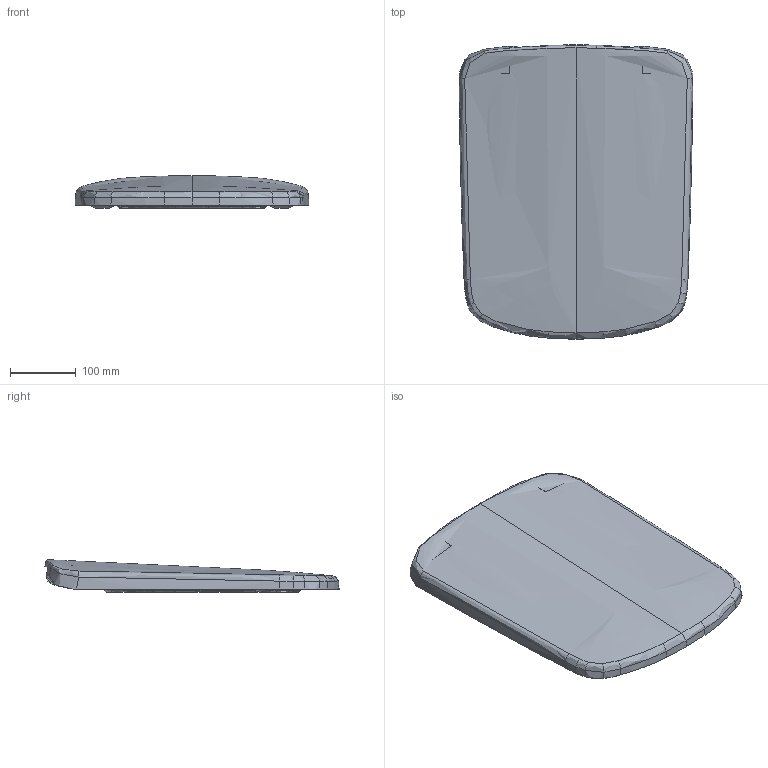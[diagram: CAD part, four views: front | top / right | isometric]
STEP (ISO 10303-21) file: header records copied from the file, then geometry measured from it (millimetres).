
FILE_DESCRIPTION(/* description */ (''),/* implementation_level */ '2;1');
FILE_NAME(/* name */ 'C:\Planerdaten\Export PLA\500.332.01.1\stp\500334.stp',/* time_stamp */ '2020-05-01T05:35:46-07:00',/* author */ ('JANAN'),/* organization */ (''),/* preprocessor_version */ 'ST-DEVELOPER v16.13',/* originating_system */ 'Autodesk Inventor 2018',/* authorisation */ '');
FILE_SCHEMA (('AUTOMOTIVE_DESIGN { 1 0 10303 214 3 1 1 }','TECHNICAL_DATA_PACKAGING'));
Length unit declared in the file: millimetre
Products named in the file (1): WC-Sitz Ge+SnvS Bef-o AbsA
Bounding box: 355.68 x 447.78 x 49.67 mm (x, y, z)
Volume: 1421808.1 mm3; surface area: 560595.2 mm2
Topology: 2 solids, 2 shells, 554 faces, 1356 edges, 794 vertices
Faces by surface type: bspline 340, cone 82, torus 60, plane 41, cylinder 29, sphere 2
Full cylindrical faces by diameter (mm): 11.2 x2
Entity records: 73018 total; most frequent: CARTESIAN_POINT 61865, ORIENTED_EDGE 2650, DIRECTION 1633, EDGE_CURVE 1325, VERTEX_POINT 788, AXIS2_PLACEMENT_3D 741, B_SPLINE_CURVE_WITH_KNOTS 617, EDGE_LOOP 573
